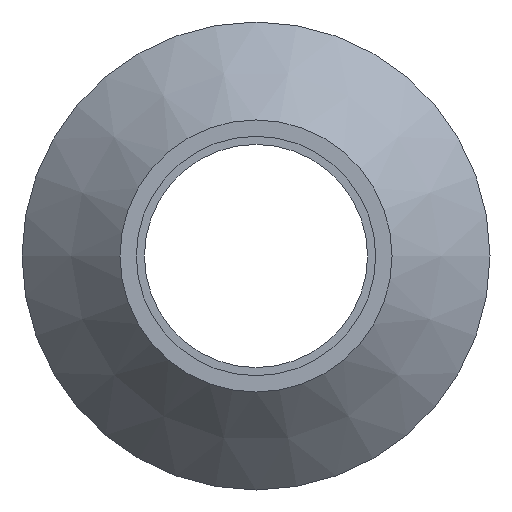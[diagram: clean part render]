
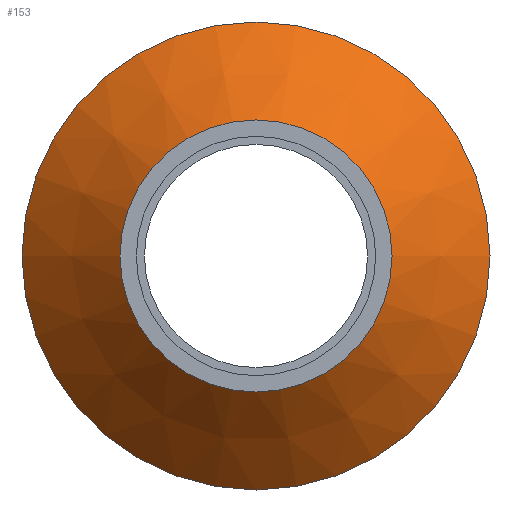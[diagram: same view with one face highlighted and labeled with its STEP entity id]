
A CAD part, left-side view. The second image highlights one B-rep face of the part: STEP entity #153.
In plain terms, the highlighted conical face has half-angle 45 degrees and reference radius 34 mm.
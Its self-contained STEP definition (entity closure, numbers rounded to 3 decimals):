
#32=FACE_BOUND($,#69,.T.);
#46=FACE_OUTER_BOUND($,#68,.T.);
#68=EDGE_LOOP($,(#133));
#69=EDGE_LOOP($,(#134));
#84=CIRCLE($,#179,25.);
#85=CIRCLE($,#181,43.);
#97=VERTEX_POINT($,#270);
#98=VERTEX_POINT($,#273);
#110=EDGE_CURVE($,#97,#97,#84,.T.);
#111=EDGE_CURVE($,#98,#98,#85,.T.);
#133=ORIENTED_EDGE($,*,*,#111,.F.);
#134=ORIENTED_EDGE($,*,*,#110,.T.);
#142=CONICAL_SURFACE($,#180,34.,45.);
#153=ADVANCED_FACE($,(#46,#32),#142,.T.);
#179=AXIS2_PLACEMENT_3D($,#271,#227,#228);
#180=AXIS2_PLACEMENT_3D($,#272,#229,#230);
#181=AXIS2_PLACEMENT_3D($,#274,#231,#232);
#227=DIRECTION('center_axis',(1.,0.,0.));
#228=DIRECTION('ref_axis',(0.,1.,0.));
#229=DIRECTION('center_axis',(1.,0.,0.));
#230=DIRECTION('ref_axis',(0.,1.,0.));
#231=DIRECTION('center_axis',(1.,0.,0.));
#232=DIRECTION('ref_axis',(0.,1.,0.));
#270=CARTESIAN_POINT('',(195.,25.,0.));
#271=CARTESIAN_POINT('Origin',(195.,0.,0.));
#272=CARTESIAN_POINT('Origin',(204.,0.,0.));
#273=CARTESIAN_POINT('',(213.,43.,0.));
#274=CARTESIAN_POINT('Origin',(213.,0.,0.));
